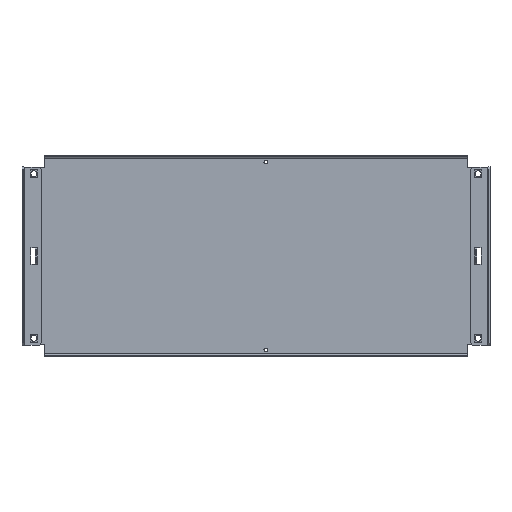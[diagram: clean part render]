
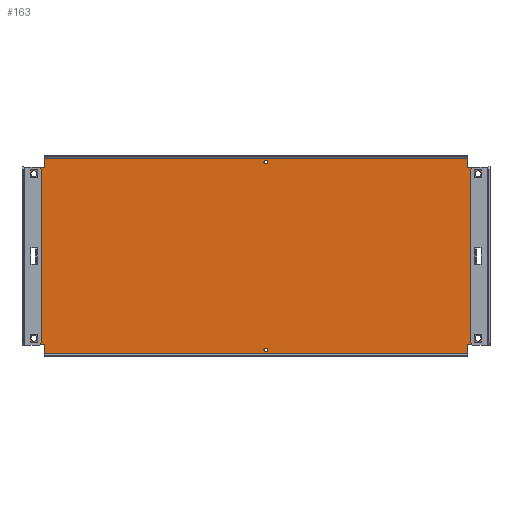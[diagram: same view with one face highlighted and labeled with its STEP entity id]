
A CAD part, top view. The second image highlights one B-rep face of the part: STEP entity #163.
In plain terms, the highlighted planar face has unit normal (0, 0, 1).
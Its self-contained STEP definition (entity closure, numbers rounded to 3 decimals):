
#163=ADVANCED_FACE('',(#1535,#1537,#1539,#1541,#1543,#1545,#1547),#1549,.T.);
#1535=FACE_BOUND('',#1536,.T.);
#1536=EDGE_LOOP('',(#2639,#2640,#2641,#2642,#2643,#2644,#2645,#2646,#2647,#2648,
#2649,#2650,#2651,#2652,#2653,#2654,#2655,#2656,#2657,#2658,#2659,#2660,#2661,#2662,
#2663,#2664,#2665,#2666));
#1537=FACE_BOUND('',#1538,.T.);
#1538=EDGE_LOOP('',(#2667));
#1539=FACE_BOUND('',#1540,.T.);
#1540=EDGE_LOOP('',(#2668));
#1541=FACE_BOUND('',#1542,.T.);
#1542=EDGE_LOOP('',(#2669));
#1543=FACE_BOUND('',#1544,.T.);
#1544=EDGE_LOOP('',(#2670));
#1545=FACE_BOUND('',#1546,.T.);
#1546=EDGE_LOOP('',(#2671));
#1547=FACE_BOUND('',#1548,.T.);
#1548=EDGE_LOOP('',(#2672));
#1549=PLANE('',#1550);
#1550=AXIS2_PLACEMENT_3D('',#1551,#1552,#1553);
#1551=CARTESIAN_POINT('',(0.,0.,0.));
#1552=DIRECTION('',(0.,0.,1.));
#1553=DIRECTION('',(1.,0.,0.));
#2639=ORIENTED_EDGE('',*,*,#3414,.F.);
#2640=ORIENTED_EDGE('',*,*,#3415,.T.);
#2641=ORIENTED_EDGE('',*,*,#3381,.T.);
#2642=ORIENTED_EDGE('',*,*,#3416,.T.);
#2643=ORIENTED_EDGE('',*,*,#3417,.T.);
#2644=ORIENTED_EDGE('',*,*,#3418,.F.);
#2645=ORIENTED_EDGE('',*,*,#3419,.F.);
#2646=ORIENTED_EDGE('',*,*,#3420,.F.);
#2647=ORIENTED_EDGE('',*,*,#3421,.T.);
#2648=ORIENTED_EDGE('',*,*,#3422,.T.);
#2649=ORIENTED_EDGE('',*,*,#3423,.T.);
#2650=ORIENTED_EDGE('',*,*,#3424,.T.);
#2651=ORIENTED_EDGE('',*,*,#3425,.F.);
#2652=ORIENTED_EDGE('',*,*,#3426,.T.);
#2653=ORIENTED_EDGE('',*,*,#3427,.T.);
#2654=ORIENTED_EDGE('',*,*,#3428,.T.);
#2655=ORIENTED_EDGE('',*,*,#3429,.T.);
#2656=ORIENTED_EDGE('',*,*,#3430,.T.);
#2657=ORIENTED_EDGE('',*,*,#3431,.T.);
#2658=ORIENTED_EDGE('',*,*,#3432,.F.);
#2659=ORIENTED_EDGE('',*,*,#3433,.F.);
#2660=ORIENTED_EDGE('',*,*,#3434,.F.);
#2661=ORIENTED_EDGE('',*,*,#3387,.T.);
#2662=ORIENTED_EDGE('',*,*,#3435,.T.);
#2663=ORIENTED_EDGE('',*,*,#3436,.F.);
#2664=ORIENTED_EDGE('',*,*,#3437,.F.);
#2665=ORIENTED_EDGE('',*,*,#3438,.F.);
#2666=ORIENTED_EDGE('',*,*,#3377,.F.);
#2667=ORIENTED_EDGE('',*,*,#3365,.F.);
#2668=ORIENTED_EDGE('',*,*,#3367,.T.);
#2669=ORIENTED_EDGE('',*,*,#3369,.T.);
#2670=ORIENTED_EDGE('',*,*,#3371,.F.);
#2671=ORIENTED_EDGE('',*,*,#3373,.T.);
#2672=ORIENTED_EDGE('',*,*,#3375,.F.);
#3365=EDGE_CURVE('',#3757,#3757,#3758,.T.);
#3367=EDGE_CURVE('',#3761,#3761,#3762,.T.);
#3369=EDGE_CURVE('',#3765,#3765,#3766,.T.);
#3371=EDGE_CURVE('',#3769,#3769,#3770,.T.);
#3373=EDGE_CURVE('',#3773,#3773,#3774,.T.);
#3375=EDGE_CURVE('',#3777,#3777,#3778,.T.);
#3377=EDGE_CURVE('',#3781,#3782,#3783,.T.);
#3381=EDGE_CURVE('',#3789,#3790,#3791,.T.);
#3387=EDGE_CURVE('',#3802,#3800,#3803,.T.);
#3414=EDGE_CURVE('',#3852,#3781,#3853,.T.);
#3415=EDGE_CURVE('',#3852,#3789,#3854,.T.);
#3416=EDGE_CURVE('',#3790,#3855,#3856,.T.);
#3417=EDGE_CURVE('',#3855,#3857,#3858,.T.);
#3418=EDGE_CURVE('',#3859,#3857,#3860,.T.);
#3419=EDGE_CURVE('',#3861,#3859,#3862,.T.);
#3420=EDGE_CURVE('',#3863,#3861,#3864,.T.);
#3421=EDGE_CURVE('',#3863,#3865,#3866,.T.);
#3422=EDGE_CURVE('',#3865,#3867,#3868,.T.);
#3423=EDGE_CURVE('',#3867,#3869,#3870,.T.);
#3424=EDGE_CURVE('',#3869,#3871,#3872,.T.);
#3425=EDGE_CURVE('',#3873,#3871,#3874,.T.);
#3426=EDGE_CURVE('',#3873,#3875,#3876,.T.);
#3427=EDGE_CURVE('',#3875,#3877,#3878,.T.);
#3428=EDGE_CURVE('',#3877,#3879,#3880,.T.);
#3429=EDGE_CURVE('',#3879,#3881,#3882,.T.);
#3430=EDGE_CURVE('',#3881,#3883,#3884,.T.);
#3431=EDGE_CURVE('',#3883,#3885,#3886,.T.);
#3432=EDGE_CURVE('',#3887,#3885,#3888,.T.);
#3433=EDGE_CURVE('',#3889,#3887,#3890,.T.);
#3434=EDGE_CURVE('',#3802,#3889,#3891,.T.);
#3435=EDGE_CURVE('',#3800,#3892,#3893,.T.);
#3436=EDGE_CURVE('',#3894,#3892,#3895,.T.);
#3437=EDGE_CURVE('',#3896,#3894,#3897,.T.);
#3438=EDGE_CURVE('',#3782,#3896,#3898,.T.);
#3757=VERTEX_POINT('',#4401);
#3758=CIRCLE('',#4402,2.3);
#3761=VERTEX_POINT('',#4411);
#3762=CIRCLE('',#4412,2.3);
#3765=VERTEX_POINT('',#4421);
#3766=CIRCLE('',#4422,3.65);
#3769=VERTEX_POINT('',#4431);
#3770=CIRCLE('',#4432,3.65);
#3773=VERTEX_POINT('',#4441);
#3774=CIRCLE('',#4442,3.65);
#3777=VERTEX_POINT('',#4451);
#3778=CIRCLE('',#4452,3.65);
#3781=VERTEX_POINT('',#4461);
#3782=VERTEX_POINT('',#4462);
#3783=LINE('',#4463,#4464);
#3789=VERTEX_POINT('',#4477);
#3790=VERTEX_POINT('',#4478);
#3791=LINE('',#4479,#4480);
#3800=VERTEX_POINT('',#4498);
#3802=VERTEX_POINT('',#4502);
#3803=LINE('',#4503,#4504);
#3852=VERTEX_POINT('',#4606);
#3853=LINE('',#4607,#4608);
#3854=LINE('',#4610,#4611);
#3855=VERTEX_POINT('',#4613);
#3856=LINE('',#4614,#4615);
#3857=VERTEX_POINT('',#4617);
#3858=LINE('',#4618,#4619);
#3859=VERTEX_POINT('',#4621);
#3860=LINE('',#4622,#4623);
#3861=VERTEX_POINT('',#4625);
#3862=LINE('',#4626,#4627);
#3863=VERTEX_POINT('',#4629);
#3864=LINE('',#4630,#4631);
#3865=VERTEX_POINT('',#4633);
#3866=LINE('',#4634,#4635);
#3867=VERTEX_POINT('',#4637);
#3868=LINE('',#4638,#4639);
#3869=VERTEX_POINT('',#4641);
#3870=LINE('',#4642,#4643);
#3871=VERTEX_POINT('',#4645);
#3872=LINE('',#4646,#4647);
#3873=VERTEX_POINT('',#4649);
#3874=LINE('',#4650,#4651);
#3875=VERTEX_POINT('',#4653);
#3876=LINE('',#4654,#4655);
#3877=VERTEX_POINT('',#4657);
#3878=LINE('',#4658,#4659);
#3879=VERTEX_POINT('',#4661);
#3880=LINE('',#4662,#4663);
#3881=VERTEX_POINT('',#4665);
#3882=LINE('',#4666,#4667);
#3883=VERTEX_POINT('',#4669);
#3884=LINE('',#4670,#4671);
#3885=VERTEX_POINT('',#4673);
#3886=LINE('',#4674,#4675);
#3887=VERTEX_POINT('',#4677);
#3888=LINE('',#4678,#4679);
#3889=VERTEX_POINT('',#4681);
#3890=LINE('',#4682,#4683);
#3891=LINE('',#4685,#4686);
#3892=VERTEX_POINT('',#4688);
#3893=LINE('',#4689,#4690);
#3894=VERTEX_POINT('',#4692);
#3895=LINE('',#4693,#4694);
#3896=VERTEX_POINT('',#4696);
#3897=LINE('',#4697,#4698);
#3898=LINE('',#4700,#4701);
#4401=CARTESIAN_POINT('',(9.7,114.3,0.));
#4402=AXIS2_PLACEMENT_3D('',#4403,#4404,#4405);
#4403=CARTESIAN_POINT('',(12.,114.3,0.));
#4404=DIRECTION('',(0.,0.,1.));
#4405=DIRECTION('',(-1.,0.,0.));
#4411=CARTESIAN_POINT('',(9.7,-114.3,0.));
#4412=AXIS2_PLACEMENT_3D('',#4413,#4414,#4415);
#4413=CARTESIAN_POINT('',(12.,-114.3,0.));
#4414=DIRECTION('',(0.,0.,-1.));
#4415=DIRECTION('',(1.,0.,0.));
#4421=CARTESIAN_POINT('',(266.45,100.,0.));
#4422=AXIS2_PLACEMENT_3D('',#4423,#4424,#4425);
#4423=CARTESIAN_POINT('',(270.1,100.,0.));
#4424=DIRECTION('',(0.,0.,-1.));
#4425=DIRECTION('',(1.,0.,0.));
#4431=CARTESIAN_POINT('',(266.45,-100.,0.));
#4432=AXIS2_PLACEMENT_3D('',#4433,#4434,#4435);
#4433=CARTESIAN_POINT('',(270.1,-100.,0.));
#4434=DIRECTION('',(0.,0.,1.));
#4435=DIRECTION('',(-1.,0.,0.));
#4441=CARTESIAN_POINT('',(-273.75,-100.,0.));
#4442=AXIS2_PLACEMENT_3D('',#4443,#4444,#4445);
#4443=CARTESIAN_POINT('',(-270.1,-100.,0.));
#4444=DIRECTION('',(0.,0.,-1.));
#4445=DIRECTION('',(1.,0.,0.));
#4451=CARTESIAN_POINT('',(-273.75,100.,0.));
#4452=AXIS2_PLACEMENT_3D('',#4453,#4454,#4455);
#4453=CARTESIAN_POINT('',(-270.1,100.,0.));
#4454=DIRECTION('',(0.,0.,1.));
#4455=DIRECTION('',(-1.,0.,0.));
#4461=CARTESIAN_POINT('',(265.2,16.,0.));
#4462=CARTESIAN_POINT('',(265.2,7.5,0.));
#4463=CARTESIAN_POINT('',(265.2,16.,0.));
#4464=VECTOR('',#4465,1.);
#4465=DIRECTION('',(0.,-1.,0.));
#4477=CARTESIAN_POINT('',(277.6,23.07,0.));
#4478=CARTESIAN_POINT('',(277.6,107.25,0.));
#4479=CARTESIAN_POINT('',(277.6,23.07,0.));
#4480=VECTOR('',#4481,1.);
#4481=DIRECTION('',(0.,1.,0.));
#4498=CARTESIAN_POINT('',(277.6,-23.07,0.));
#4502=CARTESIAN_POINT('',(277.6,-107.25,0.));
#4503=CARTESIAN_POINT('',(277.6,-107.25,0.));
#4504=VECTOR('',#4505,1.);
#4505=DIRECTION('',(0.,1.,0.));
#4606=CARTESIAN_POINT('',(270.53,16.,0.));
#4607=CARTESIAN_POINT('',(270.53,16.,0.));
#4608=VECTOR('',#4609,1.);
#4609=DIRECTION('',(-1.,0.,0.));
#4610=CARTESIAN_POINT('',(270.53,16.,0.));
#4611=VECTOR('',#4612,1.);
#4612=DIRECTION('',(0.707,0.707,0.));
#4613=CARTESIAN_POINT('',(257.6,107.25,0.));
#4614=CARTESIAN_POINT('',(277.6,107.25,0.));
#4615=VECTOR('',#4616,1.);
#4616=DIRECTION('',(-1.,0.,0.));
#4617=CARTESIAN_POINT('',(257.6,119.1,0.));
#4618=CARTESIAN_POINT('',(257.6,107.25,0.));
#4619=VECTOR('',#4620,1.);
#4620=DIRECTION('',(0.,1.,0.));
#4621=CARTESIAN_POINT('',(-257.6,119.1,0.));
#4622=CARTESIAN_POINT('',(-257.6,119.1,0.));
#4623=VECTOR('',#4624,1.);
#4624=DIRECTION('',(1.,0.,0.));
#4625=CARTESIAN_POINT('',(-257.6,107.25,0.));
#4626=CARTESIAN_POINT('',(-257.6,107.25,0.));
#4627=VECTOR('',#4628,1.);
#4628=DIRECTION('',(0.,1.,0.));
#4629=CARTESIAN_POINT('',(-277.6,107.25,0.));
#4630=CARTESIAN_POINT('',(-277.6,107.25,0.));
#4631=VECTOR('',#4632,1.);
#4632=DIRECTION('',(1.,0.,0.));
#4633=CARTESIAN_POINT('',(-277.6,23.07,0.));
#4634=CARTESIAN_POINT('',(-277.6,107.25,0.));
#4635=VECTOR('',#4636,1.);
#4636=DIRECTION('',(0.,-1.,0.));
#4637=CARTESIAN_POINT('',(-270.53,16.,0.));
#4638=CARTESIAN_POINT('',(-277.6,23.07,0.));
#4639=VECTOR('',#4640,1.);
#4640=DIRECTION('',(0.707,-0.707,0.));
#4641=CARTESIAN_POINT('',(-265.2,16.,0.));
#4642=CARTESIAN_POINT('',(-270.53,16.,0.));
#4643=VECTOR('',#4644,1.);
#4644=DIRECTION('',(1.,0.,0.));
#4645=CARTESIAN_POINT('',(-265.2,7.5,0.));
#4646=CARTESIAN_POINT('',(-265.2,16.,0.));
#4647=VECTOR('',#4648,1.);
#4648=DIRECTION('',(0.,-1.,0.));
#4649=CARTESIAN_POINT('',(-265.2,-7.5,0.));
#4650=CARTESIAN_POINT('',(-265.2,-7.5,0.));
#4651=VECTOR('',#4652,1.);
#4652=DIRECTION('',(0.,1.,0.));
#4653=CARTESIAN_POINT('',(-265.2,-16.,0.));
#4654=CARTESIAN_POINT('',(-265.2,-7.5,0.));
#4655=VECTOR('',#4656,1.);
#4656=DIRECTION('',(0.,-1.,0.));
#4657=CARTESIAN_POINT('',(-270.53,-16.,0.));
#4658=CARTESIAN_POINT('',(-265.2,-16.,0.));
#4659=VECTOR('',#4660,1.);
#4660=DIRECTION('',(-1.,0.,0.));
#4661=CARTESIAN_POINT('',(-277.6,-23.07,0.));
#4662=CARTESIAN_POINT('',(-270.53,-16.,0.));
#4663=VECTOR('',#4664,1.);
#4664=DIRECTION('',(-0.707,-0.707,0.));
#4665=CARTESIAN_POINT('',(-277.6,-107.25,0.));
#4666=CARTESIAN_POINT('',(-277.6,-23.07,0.));
#4667=VECTOR('',#4668,1.);
#4668=DIRECTION('',(0.,-1.,0.));
#4669=CARTESIAN_POINT('',(-257.6,-107.25,0.));
#4670=CARTESIAN_POINT('',(-277.6,-107.25,0.));
#4671=VECTOR('',#4672,1.);
#4672=DIRECTION('',(1.,0.,0.));
#4673=CARTESIAN_POINT('',(-257.6,-119.1,0.));
#4674=CARTESIAN_POINT('',(-257.6,-107.25,0.));
#4675=VECTOR('',#4676,1.);
#4676=DIRECTION('',(0.,-1.,0.));
#4677=CARTESIAN_POINT('',(257.6,-119.1,0.));
#4678=CARTESIAN_POINT('',(257.6,-119.1,0.));
#4679=VECTOR('',#4680,1.);
#4680=DIRECTION('',(-1.,0.,0.));
#4681=CARTESIAN_POINT('',(257.6,-107.25,0.));
#4682=CARTESIAN_POINT('',(257.6,-107.25,0.));
#4683=VECTOR('',#4684,1.);
#4684=DIRECTION('',(0.,-1.,0.));
#4685=CARTESIAN_POINT('',(277.6,-107.25,0.));
#4686=VECTOR('',#4687,1.);
#4687=DIRECTION('',(-1.,0.,0.));
#4688=CARTESIAN_POINT('',(270.53,-16.,0.));
#4689=CARTESIAN_POINT('',(277.6,-23.07,0.));
#4690=VECTOR('',#4691,1.);
#4691=DIRECTION('',(-0.707,0.707,0.));
#4692=CARTESIAN_POINT('',(265.2,-16.,0.));
#4693=CARTESIAN_POINT('',(265.2,-16.,0.));
#4694=VECTOR('',#4695,1.);
#4695=DIRECTION('',(1.,0.,0.));
#4696=CARTESIAN_POINT('',(265.2,-7.5,0.));
#4697=CARTESIAN_POINT('',(265.2,-7.5,0.));
#4698=VECTOR('',#4699,1.);
#4699=DIRECTION('',(0.,-1.,0.));
#4700=CARTESIAN_POINT('',(265.2,7.5,0.));
#4701=VECTOR('',#4702,1.);
#4702=DIRECTION('',(0.,-1.,0.));
